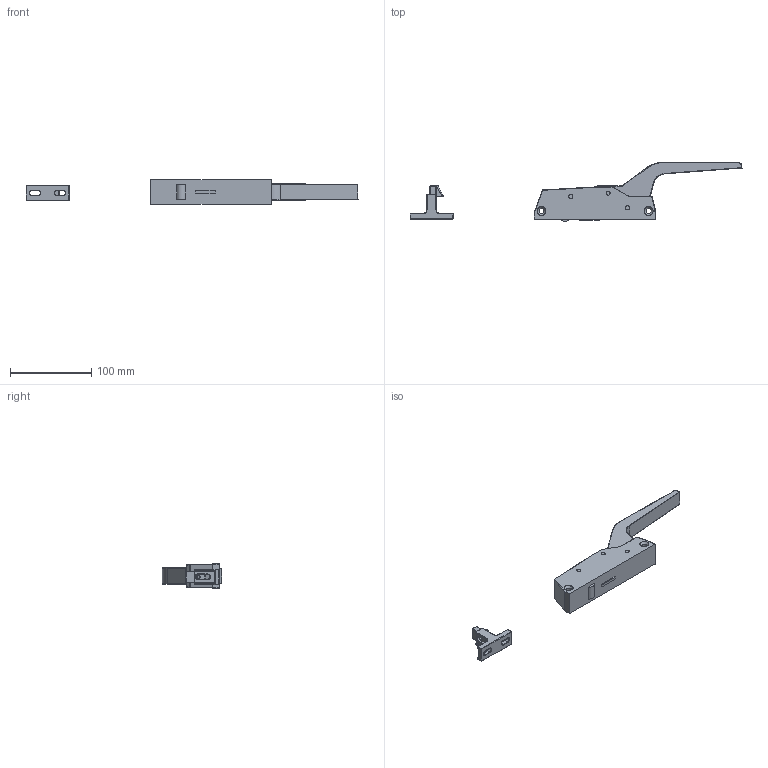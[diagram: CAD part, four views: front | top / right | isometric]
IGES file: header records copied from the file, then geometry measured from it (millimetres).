
Start section: SolidWorks IGES file using analytic representation for surfaces
Global section: file name: D:\尚坤工业图纸\SK1--门锁系列\SK1-791\SK1-791.IGS; native system: SolidWorks 2015; preprocessor: SolidWorks 2015; author: admin; date: 181101.112125; units: millimetre
Bounding box: 409 x 73 x 30 mm (x, y, z)
Surface area: 39842 mm2 (no closed solid volume)
Topology: 0 solids, 0 shells, 336 faces, 3023 edges, 3001 vertices
Faces by surface type: revolution 185, bspline 151
